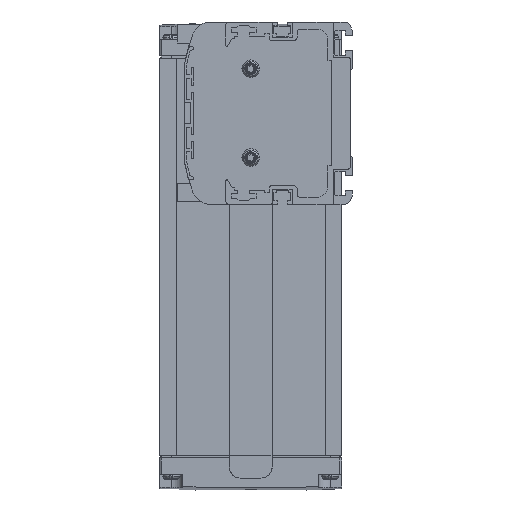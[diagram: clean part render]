
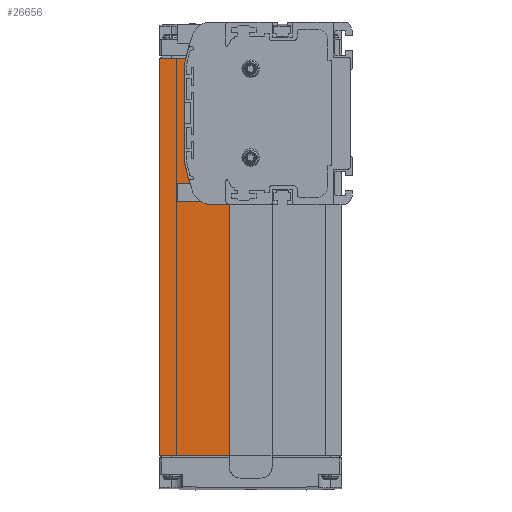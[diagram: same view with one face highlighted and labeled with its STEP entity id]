
A CAD part, left-side view. The second image highlights one B-rep face of the part: STEP entity #26656.
In plain terms, the highlighted planar face has unit normal (-1, 0, 0).
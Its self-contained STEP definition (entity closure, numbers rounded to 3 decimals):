
#3801=DIRECTION('',(0.,-1.,0.));
#3802=VECTOR('',#3801,8.155);
#3803=CARTESIAN_POINT('',(3.,60.755,-39.));
#3804=LINE('',#3803,#3802);
#3839=DIRECTION('',(0.,-1.,0.));
#3840=VECTOR('',#3839,29.9);
#3841=CARTESIAN_POINT('',(3.,82.5,-146.5));
#3842=LINE('',#3841,#3840);
#3843=DIRECTION('',(0.,1.,0.));
#3844=VECTOR('',#3843,11.203);
#3845=CARTESIAN_POINT('',(3.,71.297,23.5));
#3846=LINE('',#3845,#3844);
#3863=DIRECTION('',(0.,0.,1.));
#3864=VECTOR('',#3863,107.5);
#3865=CARTESIAN_POINT('',(3.,52.6,-146.5));
#3866=LINE('',#3865,#3864);
#3867=DIRECTION('',(0.,1.,0.));
#3868=VECTOR('',#3867,0.209);
#3869=CARTESIAN_POINT('',(3.,70.291,-27.5));
#3870=LINE('',#3869,#3868);
#3891=DIRECTION('',(0.,0.,1.));
#3892=VECTOR('',#3891,0.762);
#3893=CARTESIAN_POINT('',(3.,70.5,-27.5));
#3894=LINE('',#3893,#3892);
#9609=CARTESIAN_POINT('',(3.,-6.765,6.));
#9610=DIRECTION('',(1.,0.,0.));
#9611=DIRECTION('',(0.,0.984,0.177));
#9612=AXIS2_PLACEMENT_3D('',#9609,#9610,#9611);
#9614=CARTESIAN_POINT('',(3.,70.,19.823));
#9615=DIRECTION('',(1.,0.,0.));
#9616=DIRECTION('',(0.,1.,0.));
#9617=AXIS2_PLACEMENT_3D('',#9614,#9615,#9616);
#9623=DIRECTION('',(0.,0.,1.));
#9624=VECTOR('',#9623,39.645);
#9625=CARTESIAN_POINT('',(3.,72.,-19.823));
#9626=LINE('',#9625,#9624);
#9631=CARTESIAN_POINT('',(3.,70.,-19.823));
#9632=DIRECTION('',(-1.,0.,0.));
#9633=DIRECTION('',(0.,1.,0.));
#9634=AXIS2_PLACEMENT_3D('',#9631,#9632,#9633);
#9644=CARTESIAN_POINT('',(3.,-6.765,-6.));
#9645=DIRECTION('',(1.,0.,0.));
#9646=DIRECTION('',(0.,0.938,-0.347));
#9647=AXIS2_PLACEMENT_3D('',#9644,#9645,#9646);
#9649=CARTESIAN_POINT('',(3.,-6.765,-6.));
#9650=DIRECTION('',(1.,0.,0.));
#9651=DIRECTION('',(0.,0.966,-0.259));
#9652=AXIS2_PLACEMENT_3D('',#9649,#9650,#9651);
#9658=CARTESIAN_POINT('',(3.,60.755,-31.));
#9659=DIRECTION('',(1.,0.,0.));
#9660=DIRECTION('',(0.,0.,-1.));
#9661=AXIS2_PLACEMENT_3D('',#9658,#9659,#9660);
#12148=DIRECTION('',(0.,0.,1.));
#12149=VECTOR('',#12148,170.);
#12150=CARTESIAN_POINT('',(3.,82.5,-146.5));
#12151=LINE('',#12150,#12149);
#17340=CARTESIAN_POINT('',(3.,82.5,23.5));
#17341=VERTEX_POINT('',#17340);
#17386=CARTESIAN_POINT('',(3.,82.5,-146.5));
#17387=VERTEX_POINT('',#17386);
#17388=CARTESIAN_POINT('',(3.,52.6,-146.5));
#17389=VERTEX_POINT('',#17388);
#17418=CARTESIAN_POINT('',(3.,70.5,-27.5));
#17420=VERTEX_POINT('',#17418);
#21327=CARTESIAN_POINT('',(3.,60.755,-39.));
#21328=CARTESIAN_POINT('',(3.,52.6,-39.));
#21329=VERTEX_POINT('',#21327);
#21330=VERTEX_POINT('',#21328);
#21331=CARTESIAN_POINT('',(3.,71.297,23.5));
#21333=VERTEX_POINT('',#21331);
#21341=CARTESIAN_POINT('',(3.,70.5,-26.738));
#21342=VERTEX_POINT('',#21341);
#21345=CARTESIAN_POINT('',(3.,70.291,-27.5));
#21347=VERTEX_POINT('',#21345);
#21357=CARTESIAN_POINT('',(3.,72.,19.823));
#21358=CARTESIAN_POINT('',(3.,71.968,20.177));
#21359=VERTEX_POINT('',#21357);
#21360=VERTEX_POINT('',#21358);
#21373=CARTESIAN_POINT('',(3.,68.257,-33.778));
#21374=VERTEX_POINT('',#21373);
#21375=CARTESIAN_POINT('',(3.,71.968,-20.177));
#21376=VERTEX_POINT('',#21375);
#21377=CARTESIAN_POINT('',(3.,72.,-19.823));
#21378=VERTEX_POINT('',#21377);
#26622=CARTESIAN_POINT('',(3.,67.55,-61.5));
#26623=DIRECTION('',(1.,0.,0.));
#26624=DIRECTION('',(0.,1.,0.));
#26625=AXIS2_PLACEMENT_3D('',#26622,#26623,#26624);
#26626=PLANE('',#26625);
#26627=ORIENTED_EDGE('',*,*,#26590,.T.);
#26629=ORIENTED_EDGE('',*,*,#26628,.F.);
#26631=ORIENTED_EDGE('',*,*,#26630,.F.);
#26633=ORIENTED_EDGE('',*,*,#26632,.T.);
#26635=ORIENTED_EDGE('',*,*,#26634,.F.);
#26637=ORIENTED_EDGE('',*,*,#26636,.F.);
#26639=ORIENTED_EDGE('',*,*,#26638,.F.);
#26641=ORIENTED_EDGE('',*,*,#26640,.F.);
#26643=ORIENTED_EDGE('',*,*,#26642,.T.);
#26645=ORIENTED_EDGE('',*,*,#26644,.F.);
#26647=ORIENTED_EDGE('',*,*,#26646,.F.);
#26649=ORIENTED_EDGE('',*,*,#26648,.F.);
#26651=ORIENTED_EDGE('',*,*,#26650,.F.);
#26653=ORIENTED_EDGE('',*,*,#26652,.F.);
#26654=EDGE_LOOP('',(#26627,#26629,#26631,#26633,#26635,#26637,#26639,#26641,
#26643,#26645,#26647,#26649,#26651,#26653));
#26655=FACE_OUTER_BOUND('',#26654,.F.);
#26656=ADVANCED_FACE('',(#26655),#26626,.F.);
#9613=CIRCLE('',#9612,80.);
#9618=CIRCLE('',#9617,2.);
#9635=CIRCLE('',#9634,2.);
#9648=CIRCLE('',#9647,80.);
#9653=CIRCLE('',#9652,80.);
#9662=CIRCLE('',#9661,8.);
#26590=EDGE_CURVE('',#21329,#21330,#3804,.T.);
#26628=EDGE_CURVE('',#17389,#21330,#3866,.T.);
#26630=EDGE_CURVE('',#17387,#17389,#3842,.T.);
#26632=EDGE_CURVE('',#17387,#17341,#12151,.T.);
#26634=EDGE_CURVE('',#21333,#17341,#3846,.T.);
#26636=EDGE_CURVE('',#21360,#21333,#9613,.T.);
#26638=EDGE_CURVE('',#21359,#21360,#9618,.T.);
#26640=EDGE_CURVE('',#21378,#21359,#9626,.T.);
#26642=EDGE_CURVE('',#21378,#21376,#9635,.T.);
#26644=EDGE_CURVE('',#21342,#21376,#9653,.T.);
#26646=EDGE_CURVE('',#17420,#21342,#3894,.T.);
#26648=EDGE_CURVE('',#21347,#17420,#3870,.T.);
#26650=EDGE_CURVE('',#21374,#21347,#9648,.T.);
#26652=EDGE_CURVE('',#21329,#21374,#9662,.T.);
